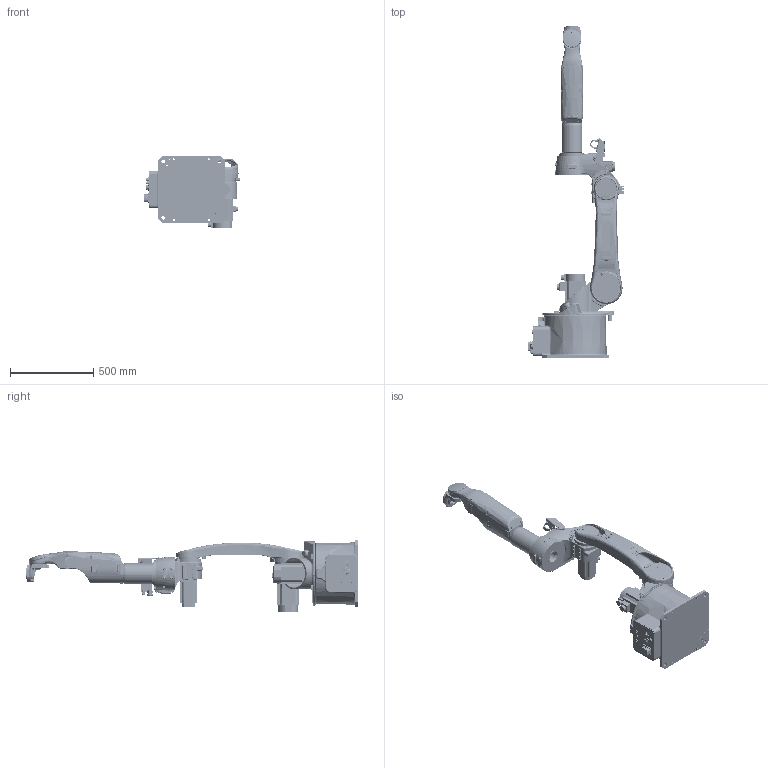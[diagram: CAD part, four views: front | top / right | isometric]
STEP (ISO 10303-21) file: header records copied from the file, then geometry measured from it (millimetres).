
FILE_DESCRIPTION (( 'STEP AP214' ), '1' );
FILE_NAME ('AIR10-1700-HWÍâ·¢Ä£ÐÍ.STEP', '2024-11-06T06:54:29', ( '' ), ( '' ), 'SwSTEP 2.0', 'SolidWorks 2011', '' );
FILE_SCHEMA (( 'AUTOMOTIVE_DESIGN' ));
Length unit declared in the file: millimetre
Products named in the file (8): LINK_6; LINK_3; AIR10-1700-HW俋楷耀倰; LINK_1; LINK_5; LINK_0; LINK_4; LINK_2
Assembly tree (7 placements, depth 2):
  AIR10-1700-HW俋楷耀倰
    LINK_3
    LINK_5
    LINK_6
    LINK_1
    LINK_0
    LINK_2
    LINK_4
Bounding box: 573.2 x 1995 x 429.5 mm (x, y, z)
Volume: 33266432.8 mm3; surface area: 3210583.8 mm2
Topology: 6 solids, 50 shells, 6029 faces, 15240 edges, 9334 vertices
Faces by surface type: plane 1796, bspline 1745, cylinder 1705, cone 619, torus 147, sphere 17
Entity records: 326406 total; most frequent: CARTESIAN_POINT 177097, ORIENTED_EDGE 30012, DIRECTION 23637, EDGE_CURVE 15008, VERTEX_POINT 9333, AXIS2_PLACEMENT_3D 8959, EDGE_LOOP 6400, FACE_OUTER_BOUND 6029
